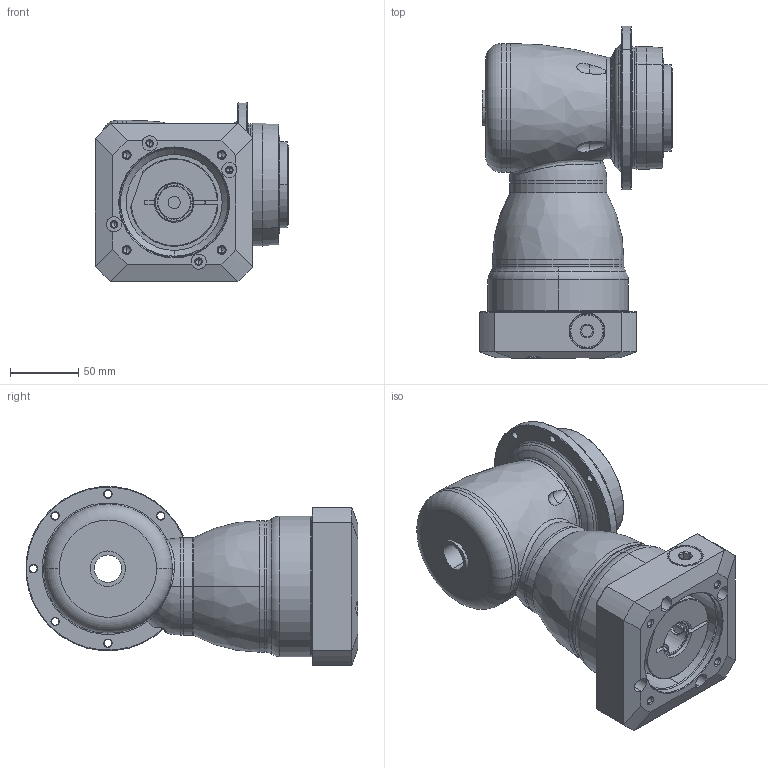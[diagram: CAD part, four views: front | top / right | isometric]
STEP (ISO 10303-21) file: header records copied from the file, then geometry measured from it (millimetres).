
FILE_DESCRIPTION((''),'2;1');
FILE_NAME('KH090_1ST_24-P0409500101_ASM','2016-06-07T',('d01943'),(''),'PRO/ENGINEER BY PARAMETRIC TECHNOLOGY CORPORATION, 2008410','PRO/ENGINEER BY PARAMETRIC TECHNOLOGY CORPORATION, 2008410','');
FILE_SCHEMA(('CONFIG_CONTROL_DESIGN'));
Length unit declared in the file: millimetre
Products named in the file (11): P1008300002_AF1; P1816300001_AF1; P1817300001_AF1; P1315300001_AF1; P1007300001; P1318300301; P0409500101; P0503500010; P0912303001; 21711418017; KH090_1ST_24-P0409500101_ASM
Assembly tree (10 placements, depth 2):
  KH090_1ST_24-P0409500101_ASM
    P1008300002_AF1
    P1816300001_AF1
    P1817300001_AF1
    P1315300001_AF1
    P1007300001
    P1318300301
    P0409500101
    P0503500010
    P0912303001
    21711418017
Bounding box: 141 x 242.27 x 130.27 mm (x, y, z)
Volume: 1715658.3 mm3; surface area: 264762.5 mm2
Topology: 11 solids, 11 shells, 547 faces, 1253 edges, 742 vertices
Faces by surface type: cylinder 203, cone 150, plane 96, torus 62, bspline 34, sphere 2
Entity records: 22447 total; most frequent: CARTESIAN_POINT 9924, DIRECTION 2782, ORIENTED_EDGE 2416, EDGE_CURVE 1208, AXIS2_PLACEMENT_3D 1182, VERTEX_POINT 735, CIRCLE 648, EDGE_LOOP 643
